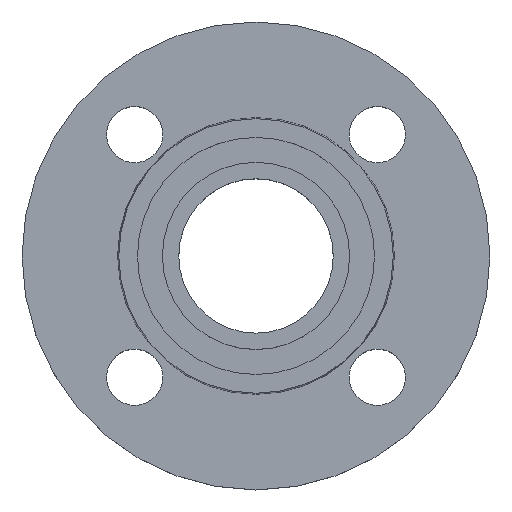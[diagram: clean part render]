
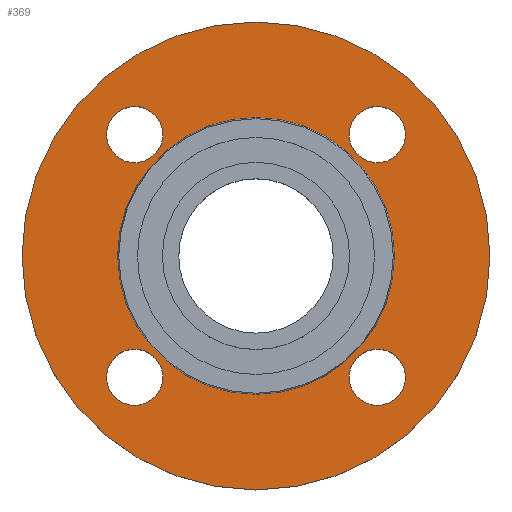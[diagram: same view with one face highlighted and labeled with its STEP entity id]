
A CAD part, top view. The second image highlights one B-rep face of the part: STEP entity #369.
In plain terms, the highlighted planar face has unit normal (0, 0, 1).
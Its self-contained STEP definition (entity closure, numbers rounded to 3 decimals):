
#3 = EDGE_CURVE ( 'NONE', #193, #649, #578, .T. ) ;
#17 = CARTESIAN_POINT ( 'NONE',  ( 44.353, 0., -2. ) ) ;
#34 = CARTESIAN_POINT ( 'NONE',  ( -47.891, -38.891, -2. ) ) ;
#44 = CARTESIAN_POINT ( 'NONE',  ( 29.891, -38.891, -2. ) ) ;
#45 = EDGE_CURVE ( 'NONE', #484, #692, #360, .T. ) ;
#52 = DIRECTION ( 'NONE',  ( 1., 0., 0. ) ) ;
#53 = DIRECTION ( 'NONE',  ( 0., 0., -1. ) ) ;
#54 = DIRECTION ( 'NONE',  ( -1., 0., 0. ) ) ;
#55 = DIRECTION ( 'NONE',  ( 0., 0., -1. ) ) ;
#61 = CARTESIAN_POINT ( 'NONE',  ( 38.891, 38.891, -2. ) ) ;
#77 = EDGE_CURVE ( 'NONE', #514, #483, #748, .T. ) ;
#101 = CARTESIAN_POINT ( 'NONE',  ( -47.891, 38.891, -2. ) ) ;
#132 = DIRECTION ( 'NONE',  ( 1., 0., 0. ) ) ;
#133 = DIRECTION ( 'NONE',  ( 0., 0., -1. ) ) ;
#137 = CARTESIAN_POINT ( 'NONE',  ( -44.353, 0., -2. ) ) ;
#146 = EDGE_CURVE ( 'NONE', #594, #743, #224, .T. ) ;
#154 = CARTESIAN_POINT ( 'NONE',  ( 38.891, -38.891, -2. ) ) ;
#172 = CARTESIAN_POINT ( 'NONE',  ( 38.891, 38.891, -2. ) ) ;
#173 = DIRECTION ( 'NONE',  ( 1., 0., 0. ) ) ;
#180 = DIRECTION ( 'NONE',  ( 0., 0., -1. ) ) ;
#186 = CARTESIAN_POINT ( 'NONE',  ( -29.891, 38.891, -2. ) ) ;
#193 = VERTEX_POINT ( 'NONE', #852 ) ;
#203 = EDGE_CURVE ( 'NONE', #483, #514, #817, .T. ) ;
#204 = CIRCLE ( 'NONE', #449, 9. ) ;
#207 = EDGE_CURVE ( 'NONE', #461, #747, #240, .T. ) ;
#210 = EDGE_CURVE ( 'NONE', #692, #484, #237, .T. ) ;
#224 = CIRCLE ( 'NONE', #686, 9. ) ;
#229 = CARTESIAN_POINT ( 'NONE',  ( 0., 0., -2. ) ) ;
#230 = CARTESIAN_POINT ( 'NONE',  ( 0., 0., -2. ) ) ;
#237 = CIRCLE ( 'NONE', #474, 44.353 ) ;
#240 = CIRCLE ( 'NONE', #497, 75. ) ;
#264 = AXIS2_PLACEMENT_3D ( 'NONE', #154, #180, #132 ) ;
#274 = EDGE_CURVE ( 'NONE', #649, #193, #445, .T. ) ;
#286 = AXIS2_PLACEMENT_3D ( 'NONE', #762, #763, #764 ) ;
#295 = CARTESIAN_POINT ( 'NONE',  ( -38.891, -38.891, -2. ) ) ;
#296 = DIRECTION ( 'NONE',  ( 0., 0., -1. ) ) ;
#298 = DIRECTION ( 'NONE',  ( 1., 0., 0. ) ) ;
#315 = AXIS2_PLACEMENT_3D ( 'NONE', #865, #867, #869 ) ;
#360 = CIRCLE ( 'NONE', #522, 44.353 ) ;
#363 = CARTESIAN_POINT ( 'NONE',  ( 47.891, -38.891, -2. ) ) ;
#366 = CARTESIAN_POINT ( 'NONE',  ( 75., 0., -2. ) ) ;
#369 = ADVANCED_FACE ( 'NONE', ( #386, #392, #394, #396, #397, #400 ), #401, .T. ) ;
#386 = FACE_BOUND ( 'NONE', #502, .T. ) ;
#392 = FACE_BOUND ( 'NONE', #739, .T. ) ;
#393 = EDGE_CURVE ( 'NONE', #743, #594, #429, .T. ) ;
#394 = FACE_BOUND ( 'NONE', #463, .T. ) ;
#396 = FACE_BOUND ( 'NONE', #721, .T. ) ;
#397 = FACE_BOUND ( 'NONE', #478, .T. ) ;
#399 = AXIS2_PLACEMENT_3D ( 'NONE', #295, #296, #298 ) ;
#400 = FACE_OUTER_BOUND ( 'NONE', #760, .T. ) ;
#401 = PLANE ( 'NONE',  #836 ) ;
#404 = CARTESIAN_POINT ( 'NONE',  ( 44.353, 0., -2. ) ) ;
#406 = DIRECTION ( 'NONE',  ( 0., 0., 1. ) ) ;
#407 = DIRECTION ( 'NONE',  ( 1., 0., 0. ) ) ;
#408 = EDGE_CURVE ( 'NONE', #733, #479, #204, .T. ) ;
#428 = CARTESIAN_POINT ( 'NONE',  ( 47.891, 38.891, -2. ) ) ;
#429 = CIRCLE ( 'NONE', #264, 9. ) ;
#437 = CARTESIAN_POINT ( 'NONE',  ( -75., 0., -2. ) ) ;
#445 = CIRCLE ( 'NONE', #399, 9. ) ;
#449 = AXIS2_PLACEMENT_3D ( 'NONE', #172, #133, #173 ) ;
#454 = AXIS2_PLACEMENT_3D ( 'NONE', #230, #576, #544 ) ;
#461 = VERTEX_POINT ( 'NONE', #437 ) ;
#463 = EDGE_LOOP ( 'NONE', ( #598, #599 ) ) ;
#474 = AXIS2_PLACEMENT_3D ( 'NONE', #229, #55, #54 ) ;
#478 = EDGE_LOOP ( 'NONE', ( #602, #603 ) ) ;
#479 = VERTEX_POINT ( 'NONE', #428 ) ;
#483 = VERTEX_POINT ( 'NONE', #186 ) ;
#484 = VERTEX_POINT ( 'NONE', #137 ) ;
#497 = AXIS2_PLACEMENT_3D ( 'NONE', #880, #881, #882 ) ;
#502 = EDGE_LOOP ( 'NONE', ( #591, #593 ) ) ;
#514 = VERTEX_POINT ( 'NONE', #101 ) ;
#521 = AXIS2_PLACEMENT_3D ( 'NONE', #61, #53, #52 ) ;
#522 = AXIS2_PLACEMENT_3D ( 'NONE', #801, #802, #803 ) ;
#544 = DIRECTION ( 'NONE',  ( -1., 0., 0. ) ) ;
#567 = EDGE_CURVE ( 'NONE', #479, #733, #705, .T. ) ;
#576 = DIRECTION ( 'NONE',  ( 0., 0., -1. ) ) ;
#578 = CIRCLE ( 'NONE', #286, 9. ) ;
#582 = CIRCLE ( 'NONE', #454, 75. ) ;
#591 = ORIENTED_EDGE ( 'NONE', *, *, #393, .T. ) ;
#593 = ORIENTED_EDGE ( 'NONE', *, *, #146, .T. ) ;
#594 = VERTEX_POINT ( 'NONE', #44 ) ;
#595 = ORIENTED_EDGE ( 'NONE', *, *, #3, .T. ) ;
#596 = ORIENTED_EDGE ( 'NONE', *, *, #274, .T. ) ;
#598 = ORIENTED_EDGE ( 'NONE', *, *, #203, .T. ) ;
#599 = ORIENTED_EDGE ( 'NONE', *, *, #77, .T. ) ;
#600 = ORIENTED_EDGE ( 'NONE', *, *, #567, .T. ) ;
#601 = ORIENTED_EDGE ( 'NONE', *, *, #408, .T. ) ;
#602 = ORIENTED_EDGE ( 'NONE', *, *, #45, .T. ) ;
#603 = ORIENTED_EDGE ( 'NONE', *, *, #210, .T. ) ;
#605 = ORIENTED_EDGE ( 'NONE', *, *, #723, .F. ) ;
#606 = ORIENTED_EDGE ( 'NONE', *, *, #207, .F. ) ;
#649 = VERTEX_POINT ( 'NONE', #34 ) ;
#668 = AXIS2_PLACEMENT_3D ( 'NONE', #810, #811, #812 ) ;
#686 = AXIS2_PLACEMENT_3D ( 'NONE', #832, #834, #835 ) ;
#692 = VERTEX_POINT ( 'NONE', #17 ) ;
#705 = CIRCLE ( 'NONE', #521, 9. ) ;
#721 = EDGE_LOOP ( 'NONE', ( #600, #601 ) ) ;
#723 = EDGE_CURVE ( 'NONE', #747, #461, #582, .T. ) ;
#733 = VERTEX_POINT ( 'NONE', #785 ) ;
#739 = EDGE_LOOP ( 'NONE', ( #595, #596 ) ) ;
#743 = VERTEX_POINT ( 'NONE', #363 ) ;
#747 = VERTEX_POINT ( 'NONE', #366 ) ;
#748 = CIRCLE ( 'NONE', #668, 9. ) ;
#760 = EDGE_LOOP ( 'NONE', ( #605, #606 ) ) ;
#762 = CARTESIAN_POINT ( 'NONE',  ( -38.891, -38.891, -2. ) ) ;
#763 = DIRECTION ( 'NONE',  ( 0., 0., -1. ) ) ;
#764 = DIRECTION ( 'NONE',  ( 1., 0., 0. ) ) ;
#785 = CARTESIAN_POINT ( 'NONE',  ( 29.891, 38.891, -2. ) ) ;
#801 = CARTESIAN_POINT ( 'NONE',  ( 0., 0., -2. ) ) ;
#802 = DIRECTION ( 'NONE',  ( 0., 0., -1. ) ) ;
#803 = DIRECTION ( 'NONE',  ( -1., 0., 0. ) ) ;
#810 = CARTESIAN_POINT ( 'NONE',  ( -38.891, 38.891, -2. ) ) ;
#811 = DIRECTION ( 'NONE',  ( 0., 0., -1. ) ) ;
#812 = DIRECTION ( 'NONE',  ( 1., 0., 0. ) ) ;
#817 = CIRCLE ( 'NONE', #315, 9. ) ;
#832 = CARTESIAN_POINT ( 'NONE',  ( 38.891, -38.891, -2. ) ) ;
#834 = DIRECTION ( 'NONE',  ( 0., 0., -1. ) ) ;
#835 = DIRECTION ( 'NONE',  ( 1., 0., 0. ) ) ;
#836 = AXIS2_PLACEMENT_3D ( 'NONE', #404, #406, #407 ) ;
#852 = CARTESIAN_POINT ( 'NONE',  ( -29.891, -38.891, -2. ) ) ;
#865 = CARTESIAN_POINT ( 'NONE',  ( -38.891, 38.891, -2. ) ) ;
#867 = DIRECTION ( 'NONE',  ( 0., 0., -1. ) ) ;
#869 = DIRECTION ( 'NONE',  ( 1., 0., 0. ) ) ;
#880 = CARTESIAN_POINT ( 'NONE',  ( 0., 0., -2. ) ) ;
#881 = DIRECTION ( 'NONE',  ( 0., 0., -1. ) ) ;
#882 = DIRECTION ( 'NONE',  ( -1., 0., 0. ) ) ;
